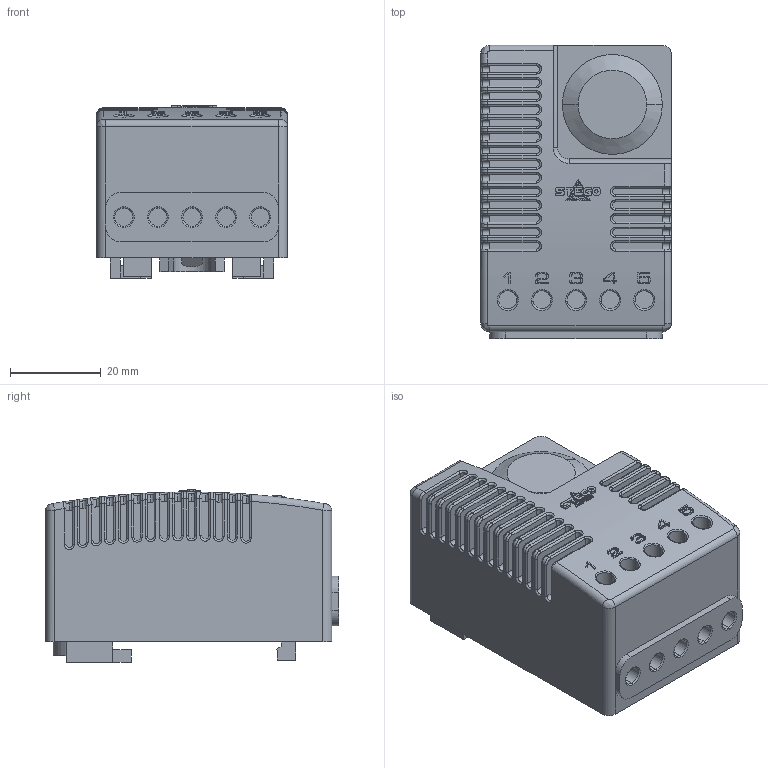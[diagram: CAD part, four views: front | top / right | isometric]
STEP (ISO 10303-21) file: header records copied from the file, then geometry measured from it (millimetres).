
FILE_DESCRIPTION (( 'STEP AP214' ), '1' );
FILE_NAME ('EFR Fix für EPLAN.STEP', '2013-08-07T05:52:31', ( 'Nutzer' ), ( '' ), 'SwSTEP 2.0', 'SolidWorks 2013', '' );
FILE_SCHEMA (( 'AUTOMOTIVE_DESIGN' ));
Length unit declared in the file: millimetre
Products named in the file (1): EFR Fix f黵 EPLAN
Bounding box: 42 x 64.5 x 38 mm (x, y, z)
Volume: 79803 mm3; surface area: 15196.4 mm2
Topology: 5 solids, 5 shells, 703 faces, 1854 edges, 1176 vertices
Faces by surface type: plane 301, cylinder 192, bspline 157, torus 51, cone 2
Entity records: 30251 total; most frequent: CARTESIAN_POINT 13744, ORIENTED_EDGE 3708, DIRECTION 2953, EDGE_CURVE 1854, VERTEX_POINT 1176, VECTOR 1067, LINE 1067, AXIS2_PLACEMENT_3D 943
